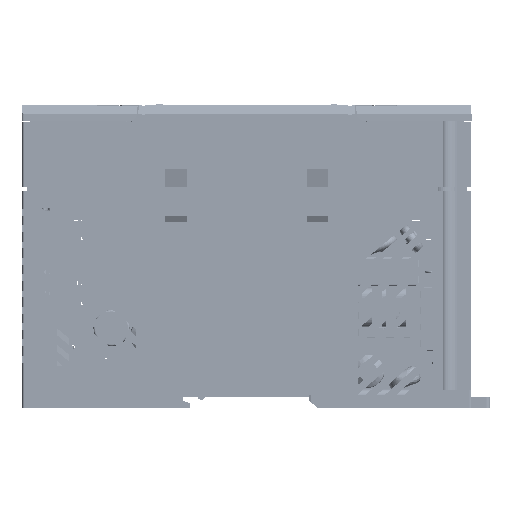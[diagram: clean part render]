
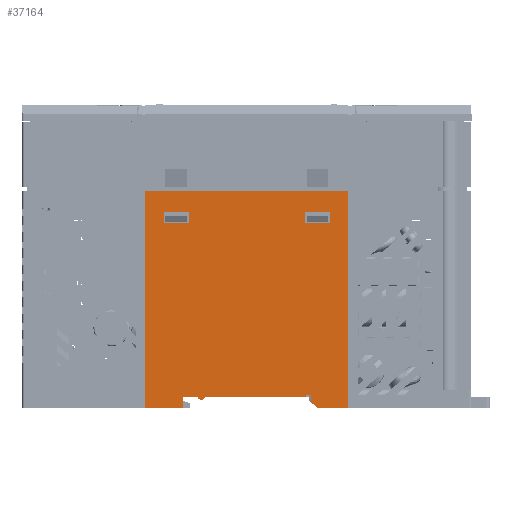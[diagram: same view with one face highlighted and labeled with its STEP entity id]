
A CAD part, left-side view. The second image highlights one B-rep face of the part: STEP entity #37164.
In plain terms, the highlighted planar face has unit normal (-1, 0, 0).
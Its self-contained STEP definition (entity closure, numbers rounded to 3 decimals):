
#37164=ADVANCED_FACE('',(#153864,#153866,#153868),#153870,.F.);
#153864=FACE_BOUND('',#153865,.T.);
#153865=EDGE_LOOP('',(#301597,#301598,#301599,#301600,#301601,#301602,#301603,#301604,
#301605,#301606,#301607,#301608,#301609));
#153866=FACE_BOUND('',#153867,.T.);
#153867=EDGE_LOOP('',(#301610,#301611,#301612,#301613));
#153868=FACE_BOUND('',#153869,.T.);
#153869=EDGE_LOOP('',(#301614,#301615,#301616,#301617));
#153870=PLANE('',#153871);
#153871=AXIS2_PLACEMENT_3D('',#153872,#153873,#153874);
#153872=CARTESIAN_POINT('',(-26.25,62.,60.));
#153873=DIRECTION('',(1.,0.,0.));
#153874=DIRECTION('',(0.,1.,0.));
#301597=ORIENTED_EDGE('',*,*,#382690,.T.);
#301598=ORIENTED_EDGE('',*,*,#382638,.T.);
#301599=ORIENTED_EDGE('',*,*,#382973,.F.);
#301600=ORIENTED_EDGE('',*,*,#382664,.T.);
#301601=ORIENTED_EDGE('',*,*,#382974,.F.);
#301602=ORIENTED_EDGE('',*,*,#382975,.F.);
#301603=ORIENTED_EDGE('',*,*,#382976,.F.);
#301604=ORIENTED_EDGE('',*,*,#382977,.F.);
#301605=ORIENTED_EDGE('',*,*,#382978,.F.);
#301606=ORIENTED_EDGE('',*,*,#382979,.F.);
#301607=ORIENTED_EDGE('',*,*,#382571,.F.);
#301608=ORIENTED_EDGE('',*,*,#382980,.F.);
#301609=ORIENTED_EDGE('',*,*,#382716,.T.);
#301610=ORIENTED_EDGE('',*,*,#382981,.F.);
#301611=ORIENTED_EDGE('',*,*,#382982,.F.);
#301612=ORIENTED_EDGE('',*,*,#382983,.F.);
#301613=ORIENTED_EDGE('',*,*,#382984,.F.);
#301614=ORIENTED_EDGE('',*,*,#382985,.F.);
#301615=ORIENTED_EDGE('',*,*,#382986,.F.);
#301616=ORIENTED_EDGE('',*,*,#382987,.F.);
#301617=ORIENTED_EDGE('',*,*,#382988,.F.);
#382571=EDGE_CURVE('',#424494,#424496,#424497,.T.);
#382638=EDGE_CURVE('',#424623,#424624,#424625,.T.);
#382664=EDGE_CURVE('',#424674,#424672,#424675,.T.);
#382690=EDGE_CURVE('',#424723,#424623,#424724,.T.);
#382716=EDGE_CURVE('',#424770,#424723,#424771,.T.);
#382973=EDGE_CURVE('',#424674,#424624,#425267,.T.);
#382974=EDGE_CURVE('',#425268,#424672,#425269,.T.);
#382975=EDGE_CURVE('',#425270,#425268,#425271,.T.);
#382976=EDGE_CURVE('',#425272,#425270,#425273,.T.);
#382977=EDGE_CURVE('',#425274,#425272,#425275,.T.);
#382978=EDGE_CURVE('',#425276,#425274,#425277,.T.);
#382979=EDGE_CURVE('',#424496,#425276,#425278,.T.);
#382980=EDGE_CURVE('',#424770,#424494,#425279,.T.);
#382981=EDGE_CURVE('',#425280,#425281,#425282,.T.);
#382982=EDGE_CURVE('',#425283,#425280,#425284,.T.);
#382983=EDGE_CURVE('',#425285,#425283,#425286,.T.);
#382984=EDGE_CURVE('',#425281,#425285,#425287,.T.);
#382985=EDGE_CURVE('',#425288,#425289,#425290,.T.);
#382986=EDGE_CURVE('',#425291,#425288,#425292,.T.);
#382987=EDGE_CURVE('',#425293,#425291,#425294,.T.);
#382988=EDGE_CURVE('',#425289,#425293,#425295,.T.);
#424494=VERTEX_POINT('',#487578);
#424496=VERTEX_POINT('',#487582);
#424497=LINE('',#487583,#487584);
#424623=VERTEX_POINT('',#487848);
#424624=VERTEX_POINT('',#487849);
#424625=LINE('',#487850,#487851);
#424672=VERTEX_POINT('',#487947);
#424674=VERTEX_POINT('',#487951);
#424675=LINE('',#487952,#487953);
#424723=VERTEX_POINT('',#488056);
#424724=LINE('',#488057,#488058);
#424770=VERTEX_POINT('',#488157);
#424771=LINE('',#488158,#488159);
#425267=CIRCLE('',#489171,1.025);
#425268=VERTEX_POINT('',#489175);
#425269=LINE('',#489176,#489177);
#425270=VERTEX_POINT('',#489179);
#425271=LINE('',#489180,#489181);
#425272=VERTEX_POINT('',#489183);
#425273=LINE('',#489184,#489185);
#425274=VERTEX_POINT('',#489187);
#425275=LINE('',#489188,#489189);
#425276=VERTEX_POINT('',#489191);
#425277=LINE('',#489192,#489193);
#425278=LINE('',#489195,#489196);
#425279=LINE('',#489198,#489199);
#425280=VERTEX_POINT('',#489201);
#425281=VERTEX_POINT('',#489202);
#425282=LINE('',#489203,#489204);
#425283=VERTEX_POINT('',#489206);
#425284=LINE('',#489207,#489208);
#425285=VERTEX_POINT('',#489210);
#425286=LINE('',#489211,#489212);
#425287=LINE('',#489214,#489215);
#425288=VERTEX_POINT('',#489217);
#425289=VERTEX_POINT('',#489218);
#425290=LINE('',#489219,#489220);
#425291=VERTEX_POINT('',#489222);
#425292=LINE('',#489223,#489224);
#425293=VERTEX_POINT('',#489226);
#425294=LINE('',#489227,#489228);
#425295=LINE('',#489230,#489231);
#487578=CARTESIAN_POINT('',(-26.25,28.,60.));
#487582=CARTESIAN_POINT('',(-26.25,-28.,60.));
#487583=CARTESIAN_POINT('',(-26.25,28.,60.));
#487584=VECTOR('',#487585,1.);
#487585=DIRECTION('',(0.,-1.,0.));
#487848=CARTESIAN_POINT('',(-26.25,17.75,3.));
#487849=CARTESIAN_POINT('',(-26.25,13.6,3.));
#487850=CARTESIAN_POINT('',(-26.25,17.75,3.));
#487851=VECTOR('',#487852,1.);
#487852=DIRECTION('',(0.,-1.,0.));
#487947=CARTESIAN_POINT('',(-26.25,-16.25,3.));
#487951=CARTESIAN_POINT('',(-26.25,11.6,3.));
#487952=CARTESIAN_POINT('',(-26.25,11.6,3.));
#487953=VECTOR('',#487954,1.);
#487954=DIRECTION('',(0.,-1.,0.));
#488056=CARTESIAN_POINT('',(-26.25,17.75,0.));
#488057=CARTESIAN_POINT('',(-26.25,17.75,0.));
#488058=VECTOR('',#488059,1.);
#488059=DIRECTION('',(0.,0.,1.));
#488157=CARTESIAN_POINT('',(-26.25,28.,0.));
#488158=CARTESIAN_POINT('',(-26.25,28.,0.));
#488159=VECTOR('',#488160,1.);
#488160=DIRECTION('',(0.,-1.,0.));
#489171=AXIS2_PLACEMENT_3D('',#489172,#489173,#489174);
#489172=CARTESIAN_POINT('',(-26.25,12.6,3.225));
#489173=DIRECTION('',(1.,0.,0.));
#489174=DIRECTION('',(0.,-0.976,-0.22));
#489175=CARTESIAN_POINT('',(-26.25,-16.25,3.5));
#489176=CARTESIAN_POINT('',(-26.25,-16.25,3.5));
#489177=VECTOR('',#489178,1.);
#489178=DIRECTION('',(0.,0.,-1.));
#489179=CARTESIAN_POINT('',(-26.25,-17.75,3.5));
#489180=CARTESIAN_POINT('',(-26.25,-17.75,3.5));
#489181=VECTOR('',#489182,1.);
#489182=DIRECTION('',(0.,1.,0.));
#489183=CARTESIAN_POINT('',(-26.25,-17.75,1.5));
#489184=CARTESIAN_POINT('',(-26.25,-17.75,1.5));
#489185=VECTOR('',#489186,1.);
#489186=DIRECTION('',(0.,0.,1.));
#489187=CARTESIAN_POINT('',(-26.25,-19.538,0.));
#489188=CARTESIAN_POINT('',(-26.25,-19.538,0.));
#489189=VECTOR('',#489190,1.);
#489190=DIRECTION('',(0.,0.766,0.643));
#489191=CARTESIAN_POINT('',(-26.25,-28.,0.));
#489192=CARTESIAN_POINT('',(-26.25,-28.,0.));
#489193=VECTOR('',#489194,1.);
#489194=DIRECTION('',(0.,1.,0.));
#489195=CARTESIAN_POINT('',(-26.25,-28.,60.));
#489196=VECTOR('',#489197,1.);
#489197=DIRECTION('',(0.,0.,-1.));
#489198=CARTESIAN_POINT('',(-26.25,28.,0.));
#489199=VECTOR('',#489200,1.);
#489200=DIRECTION('',(0.,0.,1.));
#489201=CARTESIAN_POINT('',(-26.25,-23.,51.));
#489202=CARTESIAN_POINT('',(-26.25,-23.,54.));
#489203=CARTESIAN_POINT('',(-26.25,-23.,51.));
#489204=VECTOR('',#489205,1.);
#489205=DIRECTION('',(0.,0.,1.));
#489206=CARTESIAN_POINT('',(-26.25,-16.,51.));
#489207=CARTESIAN_POINT('',(-26.25,-16.,51.));
#489208=VECTOR('',#489209,1.);
#489209=DIRECTION('',(0.,-1.,0.));
#489210=CARTESIAN_POINT('',(-26.25,-16.,54.));
#489211=CARTESIAN_POINT('',(-26.25,-16.,54.));
#489212=VECTOR('',#489213,1.);
#489213=DIRECTION('',(0.,0.,-1.));
#489214=CARTESIAN_POINT('',(-26.25,-23.,54.));
#489215=VECTOR('',#489216,1.);
#489216=DIRECTION('',(0.,1.,0.));
#489217=CARTESIAN_POINT('',(-26.25,23.,51.));
#489218=CARTESIAN_POINT('',(-26.25,16.,51.));
#489219=CARTESIAN_POINT('',(-26.25,23.,51.));
#489220=VECTOR('',#489221,1.);
#489221=DIRECTION('',(0.,-1.,0.));
#489222=CARTESIAN_POINT('',(-26.25,23.,54.));
#489223=CARTESIAN_POINT('',(-26.25,23.,54.));
#489224=VECTOR('',#489225,1.);
#489225=DIRECTION('',(0.,0.,-1.));
#489226=CARTESIAN_POINT('',(-26.25,16.,54.));
#489227=CARTESIAN_POINT('',(-26.25,16.,54.));
#489228=VECTOR('',#489229,1.);
#489229=DIRECTION('',(0.,1.,0.));
#489230=CARTESIAN_POINT('',(-26.25,16.,51.));
#489231=VECTOR('',#489232,1.);
#489232=DIRECTION('',(0.,0.,1.));
